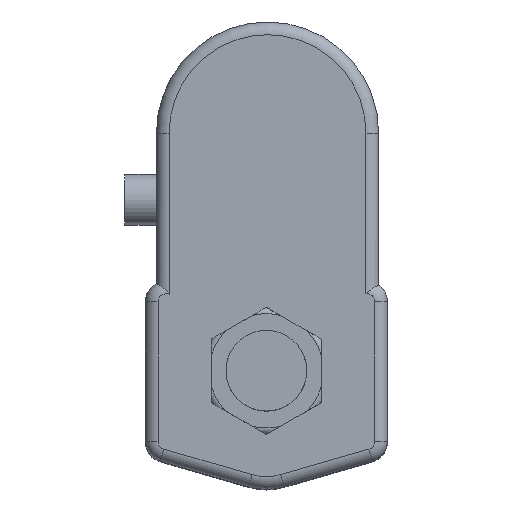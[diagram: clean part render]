
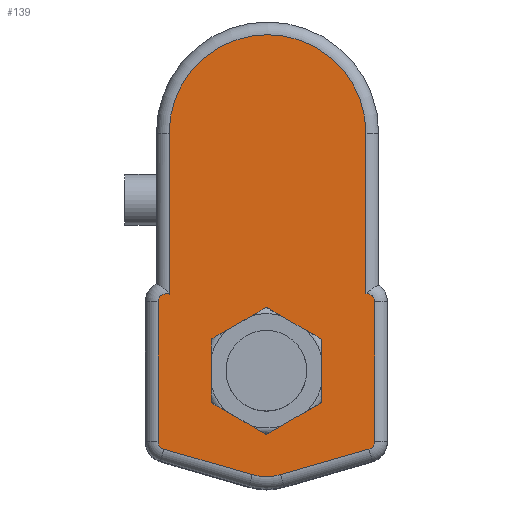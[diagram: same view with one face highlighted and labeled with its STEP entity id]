
A CAD part, top view. The second image highlights one B-rep face of the part: STEP entity #139.
In plain terms, the highlighted planar face has unit normal (0, 0, 1).
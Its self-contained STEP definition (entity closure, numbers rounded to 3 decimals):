
#139 = ADVANCED_FACE ( 'NONE', ( #1714, #1709 ), #3391, .T. ) ;
#257 = AXIS2_PLACEMENT_3D ( 'NONE', #3637, #3643, #3644 ) ;
#260 = AXIS2_PLACEMENT_3D ( 'NONE', #3647, #3658, #3659 ) ;
#267 = AXIS2_PLACEMENT_3D ( 'NONE', #3808, #3809, #3810 ) ;
#278 = AXIS2_PLACEMENT_3D ( 'NONE', #3816, #3826, #3827 ) ;
#570 = VECTOR ( 'NONE', #1129, 1000. ) ;
#577 = LINE ( 'NONE', #1099, #593 ) ;
#588 = LINE ( 'NONE', #1096, #590 ) ;
#590 = VECTOR ( 'NONE', #1100, 1000. ) ;
#593 = VECTOR ( 'NONE', #1103, 1000. ) ;
#597 = VECTOR ( 'NONE', #1136, 1000. ) ;
#598 = LINE ( 'NONE', #1107, #570 ) ;
#601 = LINE ( 'NONE', #1135, #597 ) ;
#603 = CIRCLE ( 'NONE', #2184, 2.5 ) ;
#606 = LINE ( 'NONE', #1139, #607 ) ;
#607 = VECTOR ( 'NONE', #1140, 1000. ) ;
#611 = LINE ( 'NONE', #1236, #614 ) ;
#612 = LINE ( 'NONE', #3613, #2306 ) ;
#614 = VECTOR ( 'NONE', #1237, 1000. ) ;
#1096 = CARTESIAN_POINT ( 'NONE',  ( -17.321, 10., 127.9 ) ) ;
#1099 = CARTESIAN_POINT ( 'NONE',  ( -17.321, -10., 127.9 ) ) ;
#1100 = DIRECTION ( 'NONE',  ( 0., -1., 0. ) ) ;
#1103 = DIRECTION ( 'NONE',  ( 0.866, -0.5, 0. ) ) ;
#1107 = CARTESIAN_POINT ( 'NONE',  ( -34.1, 21.81, 127.9 ) ) ;
#1129 = DIRECTION ( 'NONE',  ( 0., -1., 0. ) ) ;
#1132 = CARTESIAN_POINT ( 'NONE',  ( 31.6, 21.81, 127.9 ) ) ;
#1133 = DIRECTION ( 'NONE',  ( 0., 0., 1. ) ) ;
#1134 = DIRECTION ( 'NONE',  ( 1., 0., 0. ) ) ;
#1135 = CARTESIAN_POINT ( 'NONE',  ( 0., -20., 127.9 ) ) ;
#1136 = DIRECTION ( 'NONE',  ( 0.866, 0.5, 0. ) ) ;
#1139 = CARTESIAN_POINT ( 'NONE',  ( -30.624, 21.81, 127.9 ) ) ;
#1140 = DIRECTION ( 'NONE',  ( 0., -1., 0. ) ) ;
#1236 = CARTESIAN_POINT ( 'NONE',  ( 17.321, -10., 127.9 ) ) ;
#1237 = DIRECTION ( 'NONE',  ( 0., 1., 0. ) ) ;
#1247 = CARTESIAN_POINT ( 'NONE',  ( 0.376, 74.902, 127.9 ) ) ;
#1250 = DIRECTION ( 'NONE',  ( 0., 0., 1. ) ) ;
#1251 = DIRECTION ( 'NONE',  ( 1., 0., 0. ) ) ;
#1581 = ORIENTED_EDGE ( 'NONE', *, *, #2291, .T. ) ;
#1582 = ORIENTED_EDGE ( 'NONE', *, *, #2222, .T. ) ;
#1583 = ORIENTED_EDGE ( 'NONE', *, *, #2264, .T. ) ;
#1584 = ORIENTED_EDGE ( 'NONE', *, *, #2243, .T. ) ;
#1585 = ORIENTED_EDGE ( 'NONE', *, *, #2258, .T. ) ;
#1586 = ORIENTED_EDGE ( 'NONE', *, *, #2246, .T. ) ;
#1587 = ORIENTED_EDGE ( 'NONE', *, *, #2285, .T. ) ;
#1588 = ORIENTED_EDGE ( 'NONE', *, *, #2262, .T. ) ;
#1589 = ORIENTED_EDGE ( 'NONE', *, *, #2224, .T. ) ;
#1590 = ORIENTED_EDGE ( 'NONE', *, *, #2255, .T. ) ;
#1591 = ORIENTED_EDGE ( 'NONE', *, *, #2238, .T. ) ;
#1592 = ORIENTED_EDGE ( 'NONE', *, *, #2227, .T. ) ;
#1593 = ORIENTED_EDGE ( 'NONE', *, *, #2233, .F. ) ;
#1594 = ORIENTED_EDGE ( 'NONE', *, *, #2225, .F. ) ;
#1595 = ORIENTED_EDGE ( 'NONE', *, *, #2218, .F. ) ;
#1596 = ORIENTED_EDGE ( 'NONE', *, *, #2216, .F. ) ;
#1597 = ORIENTED_EDGE ( 'NONE', *, *, #2277, .F. ) ;
#1598 = ORIENTED_EDGE ( 'NONE', *, *, #2256, .F. ) ;
#1709 = FACE_BOUND ( 'NONE', #2641, .T. ) ;
#1714 = FACE_OUTER_BOUND ( 'NONE', #2599, .T. ) ;
#2040 = AXIS2_PLACEMENT_3D ( 'NONE', #3376, #3392, #3393 ) ;
#2184 = AXIS2_PLACEMENT_3D ( 'NONE', #1132, #1133, #1134 ) ;
#2210 = AXIS2_PLACEMENT_3D ( 'NONE', #1247, #1250, #1251 ) ;
#2216 = EDGE_CURVE ( 'NONE', #2789, #2831, #588, .T. ) ;
#2218 = EDGE_CURVE ( 'NONE', #2831, #2776, #577, .T. ) ;
#2222 = EDGE_CURVE ( 'NONE', #2721, #2787, #598, .T. ) ;
#2224 = EDGE_CURVE ( 'NONE', #2804, #2727, #603, .T. ) ;
#2225 = EDGE_CURVE ( 'NONE', #2776, #2785, #601, .T. ) ;
#2227 = EDGE_CURVE ( 'NONE', #2786, #2807, #606, .T. ) ;
#2233 = EDGE_CURVE ( 'NONE', #2785, #2728, #611, .T. ) ;
#2238 = EDGE_CURVE ( 'NONE', #2820, #2786, #2307, .T. ) ;
#2243 = EDGE_CURVE ( 'NONE', #2808, #2818, #2312, .T. ) ;
#2246 = EDGE_CURVE ( 'NONE', #2799, #2811, #612, .T. ) ;
#2255 = EDGE_CURVE ( 'NONE', #2727, #2820, #2329, .T. ) ;
#2256 = EDGE_CURVE ( 'NONE', #2728, #2754, #2324, .T. ) ;
#2258 = EDGE_CURVE ( 'NONE', #2818, #2799, #2338, .T. ) ;
#2262 = EDGE_CURVE ( 'NONE', #2828, #2804, #2336, .T. ) ;
#2264 = EDGE_CURVE ( 'NONE', #2787, #2808, #2346, .T. ) ;
#2277 = EDGE_CURVE ( 'NONE', #2754, #2789, #2353, .T. ) ;
#2285 = EDGE_CURVE ( 'NONE', #2811, #2828, #2370, .T. ) ;
#2291 = EDGE_CURVE ( 'NONE', #2807, #2721, #2377, .T. ) ;
#2306 = VECTOR ( 'NONE', #3614, 1000. ) ;
#2307 = CIRCLE ( 'NONE', #2210, 31. ) ;
#2312 = LINE ( 'NONE', #3604, #2313 ) ;
#2313 = VECTOR ( 'NONE', #3605, 1000. ) ;
#2324 = LINE ( 'NONE', #3638, #2333 ) ;
#2329 = LINE ( 'NONE', #3635, #2330 ) ;
#2330 = VECTOR ( 'NONE', #3636, 1000. ) ;
#2333 = VECTOR ( 'NONE', #3639, 1000. ) ;
#2336 = LINE ( 'NONE', #3653, #2339 ) ;
#2338 = CIRCLE ( 'NONE', #257, 16. ) ;
#2339 = VECTOR ( 'NONE', #3654, 1000. ) ;
#2346 = CIRCLE ( 'NONE', #260, 2.5 ) ;
#2353 = LINE ( 'NONE', #3706, #2359 ) ;
#2359 = VECTOR ( 'NONE', #3707, 1000. ) ;
#2370 = CIRCLE ( 'NONE', #267, 2.5 ) ;
#2377 = CIRCLE ( 'NONE', #278, 2.5 ) ;
#2599 = EDGE_LOOP ( 'NONE', ( #1581, #1582, #1583, #1584, #1585, #1586, #1587, #1588, #1589, #1590, #1591, #1592 ) ) ;
#2641 = EDGE_LOOP ( 'NONE', ( #1593, #1594, #1595, #1596, #1597, #1598 ) ) ;
#2721 = VERTEX_POINT ( 'NONE', #3856 ) ;
#2727 = VERTEX_POINT ( 'NONE', #3860 ) ;
#2728 = VERTEX_POINT ( 'NONE', #3861 ) ;
#2754 = VERTEX_POINT ( 'NONE', #3886 ) ;
#2776 = VERTEX_POINT ( 'NONE', #3908 ) ;
#2785 = VERTEX_POINT ( 'NONE', #3917 ) ;
#2786 = VERTEX_POINT ( 'NONE', #3918 ) ;
#2787 = VERTEX_POINT ( 'NONE', #3919 ) ;
#2789 = VERTEX_POINT ( 'NONE', #3921 ) ;
#2799 = VERTEX_POINT ( 'NONE', #3931 ) ;
#2804 = VERTEX_POINT ( 'NONE', #3936 ) ;
#2807 = VERTEX_POINT ( 'NONE', #3939 ) ;
#2808 = VERTEX_POINT ( 'NONE', #3940 ) ;
#2811 = VERTEX_POINT ( 'NONE', #3943 ) ;
#2818 = VERTEX_POINT ( 'NONE', #3950 ) ;
#2820 = VERTEX_POINT ( 'NONE', #3952 ) ;
#2828 = VERTEX_POINT ( 'NONE', #3960 ) ;
#2831 = VERTEX_POINT ( 'NONE', #3962 ) ;
#3376 = CARTESIAN_POINT ( 'NONE',  ( 31.6, 21.81, 127.9 ) ) ;
#3391 = PLANE ( 'NONE',  #2040 ) ;
#3392 = DIRECTION ( 'NONE',  ( 0., 0., 1. ) ) ;
#3393 = DIRECTION ( 'NONE',  ( 1., 0., 0. ) ) ;
#3604 = CARTESIAN_POINT ( 'NONE',  ( 14.312, -38.069, 127.9 ) ) ;
#3605 = DIRECTION ( 'NONE',  ( 0.961, -0.277, 0. ) ) ;
#3613 = CARTESIAN_POINT ( 'NONE',  ( 44.025, -21.226, 127.9 ) ) ;
#3614 = DIRECTION ( 'NONE',  ( 0.961, 0.277, 0. ) ) ;
#3635 = CARTESIAN_POINT ( 'NONE',  ( 31.376, 21.81, 127.9 ) ) ;
#3636 = DIRECTION ( 'NONE',  ( 0., 1., 0. ) ) ;
#3637 = CARTESIAN_POINT ( 'NONE',  ( 0., -17.283, 127.9 ) ) ;
#3638 = CARTESIAN_POINT ( 'NONE',  ( 17.321, 10., 127.9 ) ) ;
#3639 = DIRECTION ( 'NONE',  ( -0.866, 0.5, 0. ) ) ;
#3643 = DIRECTION ( 'NONE',  ( 0., 0., 1. ) ) ;
#3644 = DIRECTION ( 'NONE',  ( 1., 0., 0. ) ) ;
#3647 = CARTESIAN_POINT ( 'NONE',  ( -31.6, -22.211, 127.9 ) ) ;
#3653 = CARTESIAN_POINT ( 'NONE',  ( 34.1, 21.81, 127.9 ) ) ;
#3654 = DIRECTION ( 'NONE',  ( 0., 1., 0. ) ) ;
#3658 = DIRECTION ( 'NONE',  ( 0., 0., 1. ) ) ;
#3659 = DIRECTION ( 'NONE',  ( 1., 0., 0. ) ) ;
#3706 = CARTESIAN_POINT ( 'NONE',  ( 0., 20., 127.9 ) ) ;
#3707 = DIRECTION ( 'NONE',  ( -0.866, -0.5, 0. ) ) ;
#3808 = CARTESIAN_POINT ( 'NONE',  ( 31.6, -22.211, 127.9 ) ) ;
#3809 = DIRECTION ( 'NONE',  ( 0., 0., 1. ) ) ;
#3810 = DIRECTION ( 'NONE',  ( 1., 0., 0. ) ) ;
#3816 = CARTESIAN_POINT ( 'NONE',  ( -31.6, 21.81, 127.9 ) ) ;
#3826 = DIRECTION ( 'NONE',  ( 0., 0., 1. ) ) ;
#3827 = DIRECTION ( 'NONE',  ( 1., 0., 0. ) ) ;
#3856 = CARTESIAN_POINT ( 'NONE',  ( -34.1, 21.81, 127.9 ) ) ;
#3860 = CARTESIAN_POINT ( 'NONE',  ( 31.376, 24.299, 127.9 ) ) ;
#3861 = CARTESIAN_POINT ( 'NONE',  ( 17.321, 10., 127.9 ) ) ;
#3886 = CARTESIAN_POINT ( 'NONE',  ( 0., 20., 127.9 ) ) ;
#3908 = CARTESIAN_POINT ( 'NONE',  ( 0., -20., 127.9 ) ) ;
#3917 = CARTESIAN_POINT ( 'NONE',  ( 17.321, -10., 127.9 ) ) ;
#3918 = CARTESIAN_POINT ( 'NONE',  ( -30.624, 74.902, 127.9 ) ) ;
#3919 = CARTESIAN_POINT ( 'NONE',  ( -34.1, -22.211, 127.9 ) ) ;
#3921 = CARTESIAN_POINT ( 'NONE',  ( -17.321, 10., 127.9 ) ) ;
#3931 = CARTESIAN_POINT ( 'NONE',  ( 4.438, -32.655, 127.9 ) ) ;
#3936 = CARTESIAN_POINT ( 'NONE',  ( 34.1, 21.81, 127.9 ) ) ;
#3939 = CARTESIAN_POINT ( 'NONE',  ( -30.624, 24.111, 127.9 ) ) ;
#3940 = CARTESIAN_POINT ( 'NONE',  ( -32.293, -24.613, 127.9 ) ) ;
#3943 = CARTESIAN_POINT ( 'NONE',  ( 32.293, -24.613, 127.9 ) ) ;
#3950 = CARTESIAN_POINT ( 'NONE',  ( -4.438, -32.655, 127.9 ) ) ;
#3952 = CARTESIAN_POINT ( 'NONE',  ( 31.376, 74.902, 127.9 ) ) ;
#3960 = CARTESIAN_POINT ( 'NONE',  ( 34.1, -22.211, 127.9 ) ) ;
#3962 = CARTESIAN_POINT ( 'NONE',  ( -17.321, -10., 127.9 ) ) ;
